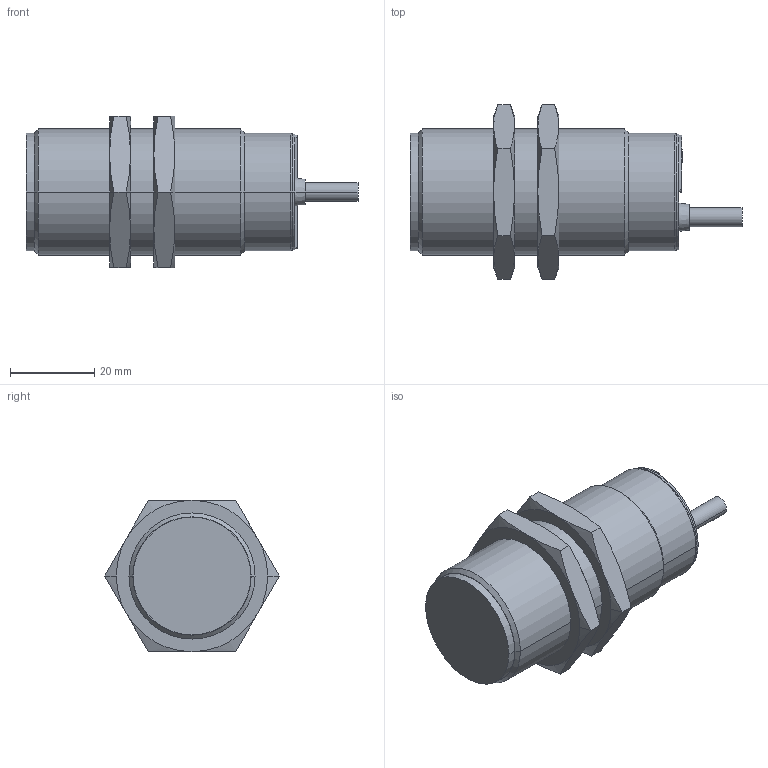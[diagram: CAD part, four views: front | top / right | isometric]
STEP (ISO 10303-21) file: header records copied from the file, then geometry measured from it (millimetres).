
FILE_DESCRIPTION( ( '' ), '1' );
FILE_NAME( 'F:/E-Medien/CADENAS/Exporte/45599_00.stp', '2011-01-05T08:42:58', ( '' ), ( '' ), ' ', ' ', ' ' );
FILE_SCHEMA( ( 'CONFIG_CONTROL_DESIGN' ) );
Length unit declared in the file: millimetre
Products named in the file (3): 1; 2; 3
Bounding box: 79 x 41.57 x 36 mm (x, y, z)
Volume: 48996.9 mm3; surface area: 11323.8 mm2
Topology: 3 solids, 3 shells, 107 faces, 246 edges, 146 vertices
Faces by surface type: cone 48, plane 37, cylinder 22
Entity records: 3090 total; most frequent: CARTESIAN_POINT 598, DIRECTION 516, ORIENTED_EDGE 492, EDGE_CURVE 246, AXIS2_PLACEMENT_3D 208, VERTEX_POINT 146, EDGE_LOOP 118, ADVANCED_FACE 107
